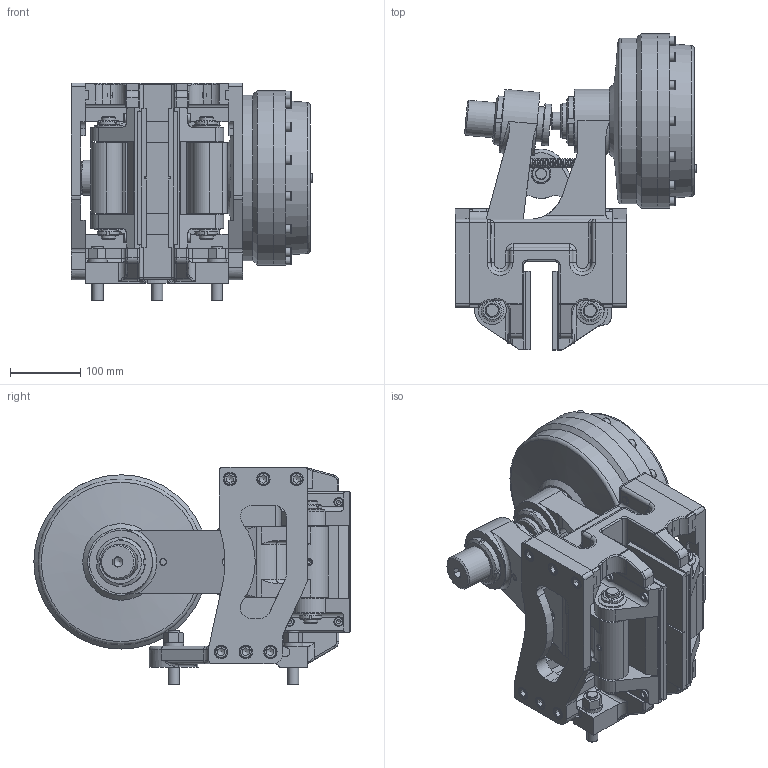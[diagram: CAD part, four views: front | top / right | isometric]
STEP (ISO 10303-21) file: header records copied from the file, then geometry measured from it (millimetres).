
FILE_DESCRIPTION(/* description */ ('','CAx-IF Rec.Pracs.---Representation and Presentation of Product Manufacturing Information (PMI)---4.0---2014-10-13'),/* implementation_level */ '2;1');
FILE_NAME(/* name */ 'X:\INVENTOR\DISEGNI\19_Pinze\STEP x Sito\PNEUM-NEGATIVE\19_36_066_05 PPT-N066_30.stp',/* time_stamp */ '2018-10-25T16:20:18+02:00',/* author */ ('stefano'),/* organization */ (''),/* preprocessor_version */ 'ST-DEVELOPER v17',/* originating_system */ 'Autodesk Inventor 2018',/* authorisation */ '');
FILE_SCHEMA (('AP242_MANAGED_MODEL_BASED_3D_ENGINEERING_MIM_LF { 1 0 10303 442 1 1 4 }'));
Length unit declared in the file: millimetre
Products named in the file (1): 19_36_066_05 PPT-N066_30_Substitute_2
Bounding box: 343.25 x 450 x 310 mm (x, y, z)
Volume: 10305831.6 mm3; surface area: 1294544.4 mm2
Topology: 1 solids, 1 shells, 1856 faces, 5108 edges, 3330 vertices
Faces by surface type: plane 907, cylinder 529, torus 185, cone 184, bspline 31, sphere 20
Full cylindrical faces by diameter (mm): 1.8 x2, 4.917 x6, 5 x2, 6.3 x6, 6.917 x1, 7.4 x1, 7.5 x2, 8 x8, 8.376 x1, 8.5 x8, 8.917 x2, 9 x1, 9.188 x1, 10 x4, 10.106 x3, 10.5 x5, 11.445 x2, 12 x15, 12.5 x12, 13 x22, 13.5 x8, 14 x1, 16 x6, 16.5 x5, 17 x3, 18 x13, 18.631 x1, 19 x12, 20 x13, 22 x6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
Entity records: 68951 total; most frequent: CARTESIAN_POINT 19834, DIRECTION 10120, ORIENTED_EDGE 10060, EDGE_CURVE 5030, AXIS2_PLACEMENT_3D 3907, VERTEX_POINT 3330, LINE 2306, VECTOR 2306
